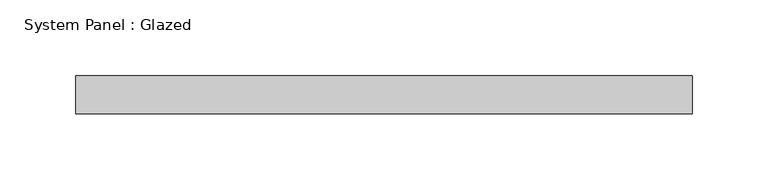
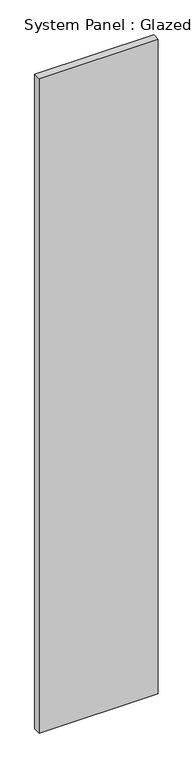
"""IFC4 building model written with IfcOpenShell, lengths in millimetres: plate geometry, System Panel : Glazed."""

from ifc_helpers import new_model, si_unit, origin, origin_with_axes, place, context, project, spatial, polyline, outline, extrude, source, transform, mapped, element, save


def system_panel_glazed_203c2d9e(model_context):
    return source(origin(), model_context, "Body", "SweptSolid", [
        extrude(outline(polyline([(203.6, 24.5), (-203.6, 24.5), (-203.6, 49.5), (203.6, 49.5), (203.6, 24.5)])), origin_with_axes(), (0.0, 0.0, 1.0), 2363.4),
    ])


if __name__ == "__main__":
    model = new_model("IFC4")
    model_context = context("Model", 3, world=origin())
    ifc_project = project(units=[si_unit("LENGTHUNIT", "METRE", prefix="MILLI")], contexts=[model_context])
    site = spatial("IfcSite", under=ifc_project)
    building = spatial("IfcBuilding", under=site)
    placement = place(None, origin())
    system_panel_glazed_shape = system_panel_glazed_203c2d9e(model_context)
    element("IfcPlate", 1, ObjectType="System Panel : Glazed", at=placement, inside=building, context=model_context, shape_type="MappedRepresentation", body=[
        mapped(system_panel_glazed_shape, transform((0.0, 0.0, 0.0), x_axis=(1.0, 0.0, 0.0), y_axis=(0.0, 1.0, 0.0), z_axis=(0.0, 0.0, 1.0))),
    ])
    save(model, "model.ifc")
